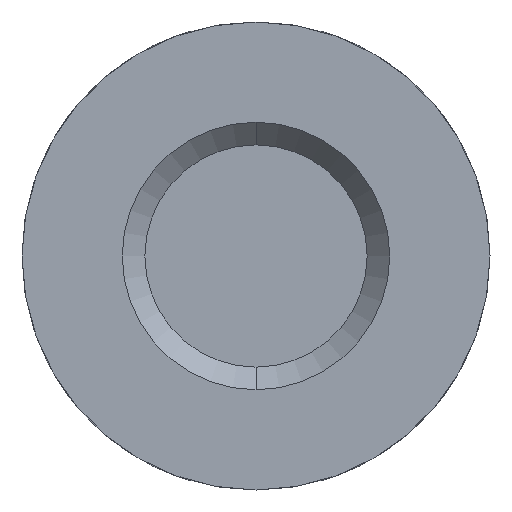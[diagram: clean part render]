
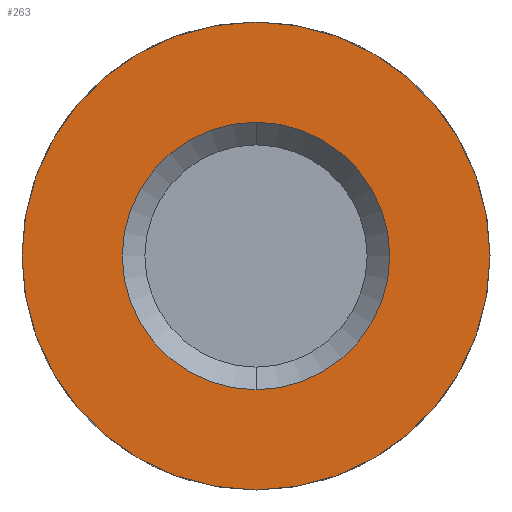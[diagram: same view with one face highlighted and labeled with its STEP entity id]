
A CAD part, front view. The second image highlights one B-rep face of the part: STEP entity #263.
In plain terms, the highlighted planar face has unit normal (0, -1, 0).
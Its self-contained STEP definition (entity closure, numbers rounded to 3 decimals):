
#4 = CIRCLE ( 'NONE', #207, 7. ) ;
#5 = ORIENTED_EDGE ( 'NONE', *, *, #89, .T. ) ;
#10 = DIRECTION ( 'NONE',  ( 0., 0., -1. ) ) ;
#27 = VERTEX_POINT ( 'NONE', #594 ) ;
#30 = DIRECTION ( 'NONE',  ( 0., 1., 0. ) ) ;
#33 = ORIENTED_EDGE ( 'NONE', *, *, #500, .F. ) ;
#35 = DIRECTION ( 'NONE',  ( 0., 0., 1. ) ) ;
#49 = DIRECTION ( 'NONE',  ( 0., 0., -1. ) ) ;
#64 = CIRCLE ( 'NONE', #65, 7. ) ;
#65 = AXIS2_PLACEMENT_3D ( 'NONE', #246, #641, #35 ) ;
#89 = EDGE_CURVE ( 'NONE', #467, #27, #296, .T. ) ;
#97 = DIRECTION ( 'NONE',  ( 0., 1., 0. ) ) ;
#112 = CARTESIAN_POINT ( 'NONE',  ( 0., 0., -4. ) ) ;
#132 = CIRCLE ( 'NONE', #469, 4. ) ;
#176 = CARTESIAN_POINT ( 'NONE',  ( 0., 0., 0. ) ) ;
#207 = AXIS2_PLACEMENT_3D ( 'NONE', #176, #30, #581 ) ;
#240 = PLANE ( 'NONE',  #589 ) ;
#246 = CARTESIAN_POINT ( 'NONE',  ( 0., 0., 0. ) ) ;
#254 = CARTESIAN_POINT ( 'NONE',  ( 0., 0., 0. ) ) ;
#263 = ADVANCED_FACE ( 'NONE', ( #356, #403 ), #240, .T. ) ;
#293 = DIRECTION ( 'NONE',  ( 0., -1., 0. ) ) ;
#296 = CIRCLE ( 'NONE', #359, 4. ) ;
#299 = EDGE_CURVE ( 'NONE', #27, #467, #132, .T. ) ;
#325 = EDGE_CURVE ( 'NONE', #576, #412, #4, .T. ) ;
#341 = CARTESIAN_POINT ( 'NONE',  ( 5.5, 0., 0. ) ) ;
#354 = ORIENTED_EDGE ( 'NONE', *, *, #299, .T. ) ;
#356 = FACE_BOUND ( 'NONE', #464, .T. ) ;
#359 = AXIS2_PLACEMENT_3D ( 'NONE', #414, #97, #453 ) ;
#403 = FACE_OUTER_BOUND ( 'NONE', #604, .T. ) ;
#412 = VERTEX_POINT ( 'NONE', #475 ) ;
#414 = CARTESIAN_POINT ( 'NONE',  ( 0., 0., 0. ) ) ;
#417 = CARTESIAN_POINT ( 'NONE',  ( 0., 0., 7. ) ) ;
#441 = ORIENTED_EDGE ( 'NONE', *, *, #325, .F. ) ;
#453 = DIRECTION ( 'NONE',  ( 0., 0., -1. ) ) ;
#464 = EDGE_LOOP ( 'NONE', ( #5, #354 ) ) ;
#467 = VERTEX_POINT ( 'NONE', #112 ) ;
#469 = AXIS2_PLACEMENT_3D ( 'NONE', #254, #607, #10 ) ;
#475 = CARTESIAN_POINT ( 'NONE',  ( 0., 0., -7. ) ) ;
#500 = EDGE_CURVE ( 'NONE', #412, #576, #64, .T. ) ;
#576 = VERTEX_POINT ( 'NONE', #417 ) ;
#581 = DIRECTION ( 'NONE',  ( 0., 0., 1. ) ) ;
#589 = AXIS2_PLACEMENT_3D ( 'NONE', #341, #293, #49 ) ;
#594 = CARTESIAN_POINT ( 'NONE',  ( 0., 0., 4. ) ) ;
#604 = EDGE_LOOP ( 'NONE', ( #441, #33 ) ) ;
#607 = DIRECTION ( 'NONE',  ( 0., 1., 0. ) ) ;
#641 = DIRECTION ( 'NONE',  ( 0., 1., 0. ) ) ;
